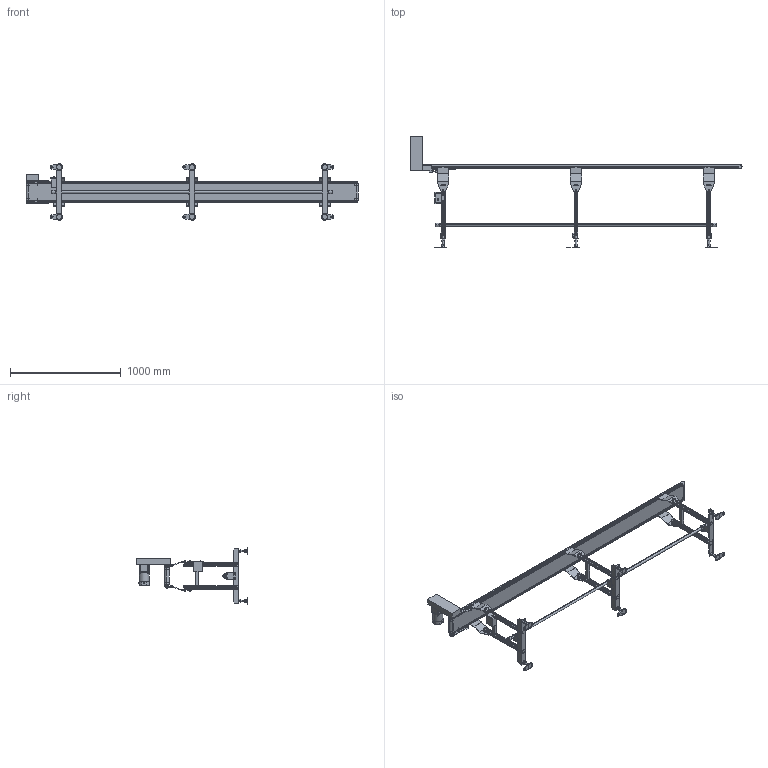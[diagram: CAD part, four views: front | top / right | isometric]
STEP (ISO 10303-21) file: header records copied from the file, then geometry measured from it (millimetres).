
FILE_DESCRIPTION( (''), '2;1');
FILE_NAME ('MB20-OD-306-150-300-L-K-100-O.stp','2025-01-29T15:43:36',(''),(''),'spGate 20.6.2 (****-****-****-****)','','');
FILE_SCHEMA (('AUTOMOTIVE_DESIGN'));
Length unit declared in the file: millimetre
Products named in the file (52): NewModel; TEMP_X_T-prt0; TEMP_X_T-prt1; TEMP_X_T-prt2; TEMP_X_T-prt3; TEMP_X_T-prt4; TEMP_X_T-prt5; TEMP_X_T-prt6; TEMP_X_T-prt7; TEMP_X_T-prt8; TEMP_X_T-prt9; TEMP_X_T-prt10; TEMP_X_T-prt11; TEMP_X_T-prt12; TEMP_X_T-prt13; TEMP_X_T-prt14; TEMP_X_T-prt15; TEMP_X_T-prt16; TEMP_X_T-prt17; TEMP_X_T-prt18; TEMP_X_T-prt19; TEMP_X_T-prt20; TEMP_X_T-prt21; TEMP_X_T-prt22; TEMP_X_T-prt23; TEMP_X_T-prt24; TEMP_X_T-prt25; TEMP_X_T-prt26; TEMP_X_T-prt27; TEMP_X_T-prt28; TEMP_X_T-prt29; TEMP_X_T-prt30; TEMP_X_T-prt31; TEMP_X_T-prt32; TEMP_X_T-prt33; TEMP_X_T-prt34; TEMP_X_T-prt35; TEMP_X_T-prt36; TEMP_X_T-prt37; TEMP_X_T-prt38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
Assembly tree (51 placements, depth 2):
  NewModel
    TEMP_X_T-prt0
    TEMP_X_T-prt1
    TEMP_X_T-prt2
    TEMP_X_T-prt3
    TEMP_X_T-prt4
    TEMP_X_T-prt5
    TEMP_X_T-prt6
    TEMP_X_T-prt7
    TEMP_X_T-prt8
    TEMP_X_T-prt9
    TEMP_X_T-prt10
    TEMP_X_T-prt11
    TEMP_X_T-prt12
    TEMP_X_T-prt13
    TEMP_X_T-prt14
    TEMP_X_T-prt15
    TEMP_X_T-prt16
    TEMP_X_T-prt17
    TEMP_X_T-prt18
    TEMP_X_T-prt19
    TEMP_X_T-prt20
    TEMP_X_T-prt21
    TEMP_X_T-prt22
    TEMP_X_T-prt23
    TEMP_X_T-prt24
    TEMP_X_T-prt25
    TEMP_X_T-prt26
    TEMP_X_T-prt27
    TEMP_X_T-prt28
    TEMP_X_T-prt29
    TEMP_X_T-prt30
    TEMP_X_T-prt31
    TEMP_X_T-prt32
    TEMP_X_T-prt33
    TEMP_X_T-prt34
    TEMP_X_T-prt35
    TEMP_X_T-prt36
    TEMP_X_T-prt37
    TEMP_X_T-prt38
    TEMP_X_T-prt39
    TEMP_X_T-prt40
    TEMP_X_T-prt41
    TEMP_X_T-prt42
    TEMP_X_T-prt43
    TEMP_X_T-prt44
    TEMP_X_T-prt45
    TEMP_X_T-prt46
    TEMP_X_T-prt47
    TEMP_X_T-prt48
    TEMP_X_T-prt49
    TEMP_X_T-prt50
Bounding box: 3001.5 x 1011.5 x 510.99 mm (x, y, z)
Volume: 13822565.2 mm3; surface area: 5947546.2 mm2
Topology: 51 solids, 51 shells, 2469 faces, 6202 edges, 4030 vertices
Faces by surface type: plane 1857, cylinder 519, bspline 93
Entity records: 125936 total; most frequent: CARTESIAN_POINT 15084, ORIENTED_EDGE 12396, DIRECTION 11893, COLOUR_RGB 8718, PRESENTATION_STYLE_ASSIGNMENT 8718, STYLED_ITEM 8718, EDGE_CURVE 6198, DRAUGHTING_PRE_DEFINED_CURVE_FONT 6198
